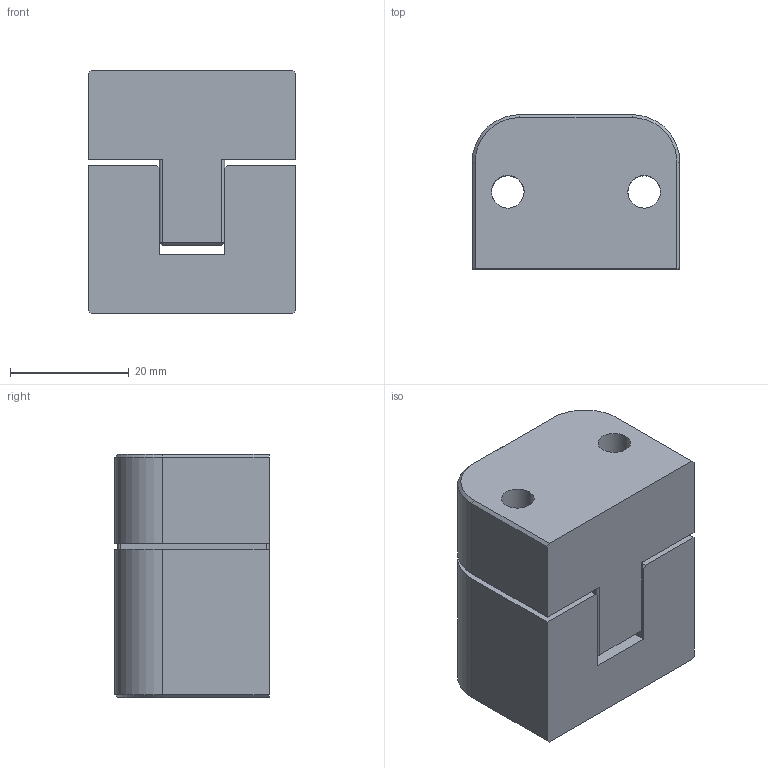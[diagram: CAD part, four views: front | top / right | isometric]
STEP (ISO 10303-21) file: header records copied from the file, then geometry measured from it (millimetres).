
FILE_DESCRIPTION(('CATIA V5 STEP Exchange'),'2;1');
FILE_NAME('C:\Users\Raffaele\Desktop\3D BOLEX\3D FILES CF BOLEX\17-CENTERER REF 505\CL505035.stp','2019-06-20T13:12:13+00:00',('none'),('none'),'CATIA Version 5 Release 20 GA (IN-10)','CATIA V5 STEP AP203','none');
FILE_SCHEMA(('CONFIG_CONTROL_DESIGN'));
Length unit declared in the file: millimetre
Products named in the file (1): CL505035
Assembly tree (2 placements, depth 2):
  CL505035
    #58
    #993
Bounding box: 35 x 26 x 41 mm (x, y, z)
Volume: 32096.7 mm3; surface area: 11912.5 mm2
Topology: 14 solids, 14 shells, 152 faces, 308 edges, 196 vertices
Faces by surface type: plane 72, cylinder 72, cone 8
Entity records: 4667 total; most frequent: CARTESIAN_POINT 1520, ORIENTED_EDGE 608, DIRECTION 565, EDGE_CURVE 304, AXIS2_PLACEMENT_3D 253, VERTEX_POINT 196, EDGE_LOOP 176, VECTOR 156
